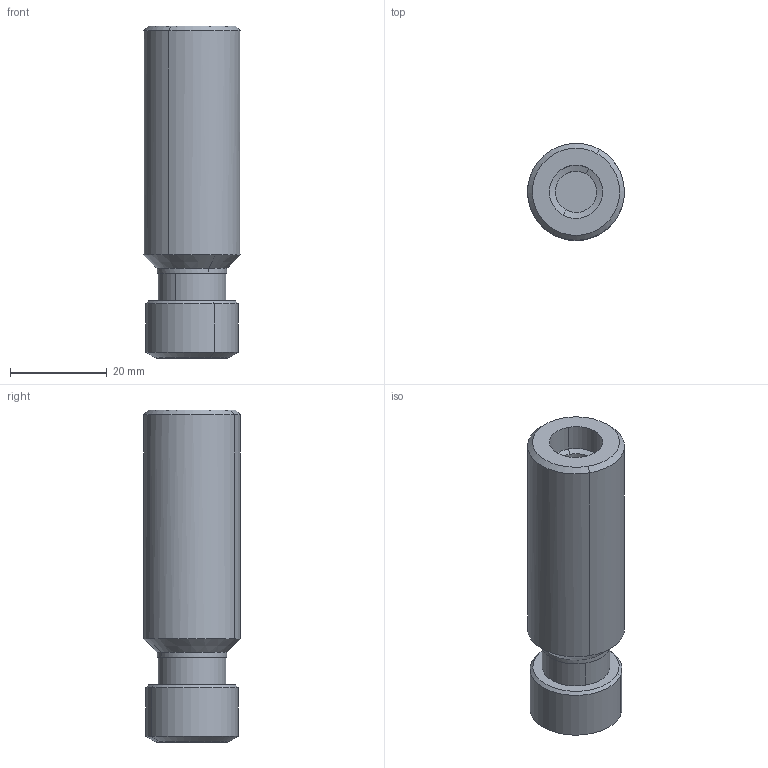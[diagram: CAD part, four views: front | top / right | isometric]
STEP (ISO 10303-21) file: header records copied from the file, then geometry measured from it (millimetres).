
FILE_DESCRIPTION(('CATIA V5 STEP','CAx-IF Rec.Pracs.--- Model Styling and Organization---1.2---2011-12-15'),'2;1');
FILE_NAME('\\nas01\drv1\utils\eitdev\rte\eit\transmagicconvert\db\out\635953652758884278\4507051 LM.stp','2016-04-04T08:14:50+00:00',('none'),('none'),'CATIA Version 5 Release 21 SP 5 (IN-10)','CATIA V5 STEP AP214','none');
FILE_SCHEMA(('AUTOMOTIVE_DESIGN { 1 0 10303 214 1 1 1 1 }'));
Length unit declared in the file: millimetre
Products named in the file (1): ST 20X 50 ER11 F
Bounding box: 19.99 x 20 x 68.5 mm (x, y, z)
Volume: 17180.7 mm3; surface area: 5876.3 mm2
Topology: 1 solids, 1 shells, 41 faces, 86 edges, 52 vertices
Faces by surface type: cylinder 16, cone 14, plane 7, extrusion 2, torus 2
Entity records: 1114 total; most frequent: CARTESIAN_POINT 281, ORIENTED_EDGE 172, DIRECTION 136, EDGE_CURVE 86, AXIS2_PLACEMENT_3D 77, VERTEX_POINT 52, CIRCLE 50, EDGE_LOOP 46
